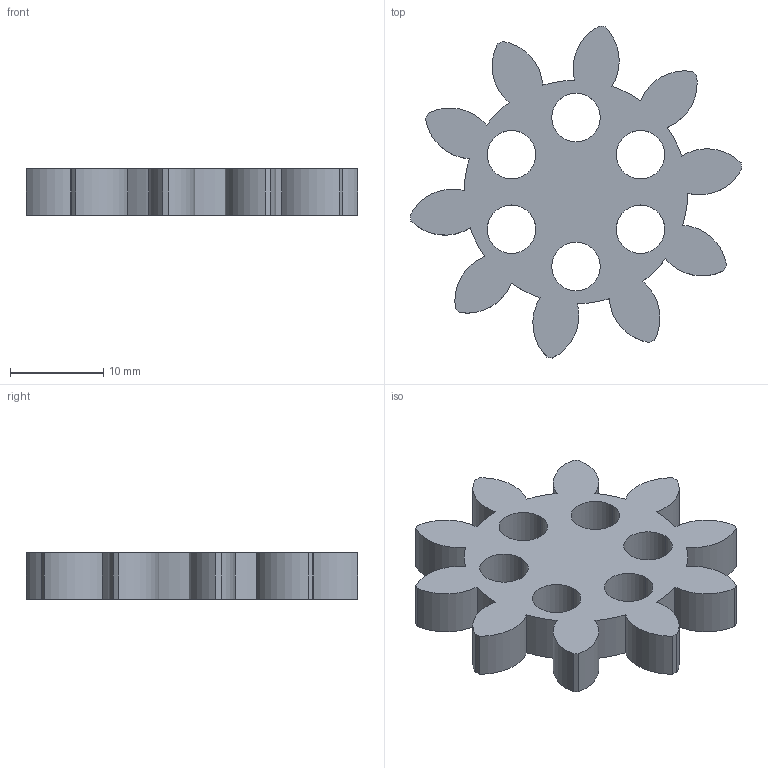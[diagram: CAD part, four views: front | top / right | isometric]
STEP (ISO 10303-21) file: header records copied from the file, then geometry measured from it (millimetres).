
FILE_DESCRIPTION (( 'STEP AP203' ), '1' );
FILE_NAME ('喘謫2.STEP', '2025-05-01T07:29:25', ( '' ), ( '' ), 'SwSTEP 2.0', 'SolidWorks 2024', '' );
FILE_SCHEMA (( 'CONFIG_CONTROL_DESIGN' ));
Length unit declared in the file: millimetre
Products named in the file (1): 齿轮2
Bounding box: 35.65 x 35.65 x 5 mm (x, y, z)
Volume: 2815 mm3; surface area: 2512 mm2
Topology: 1 solids, 1 shells, 58 faces, 168 edges, 112 vertices
Faces by surface type: cylinder 56, plane 2
Entity records: 2085 total; most frequent: DIRECTION 398, CARTESIAN_POINT 339, ORIENTED_EDGE 336, AXIS2_PLACEMENT_3D 171, EDGE_CURVE 168, VERTEX_POINT 112, CIRCLE 112, EDGE_LOOP 70
